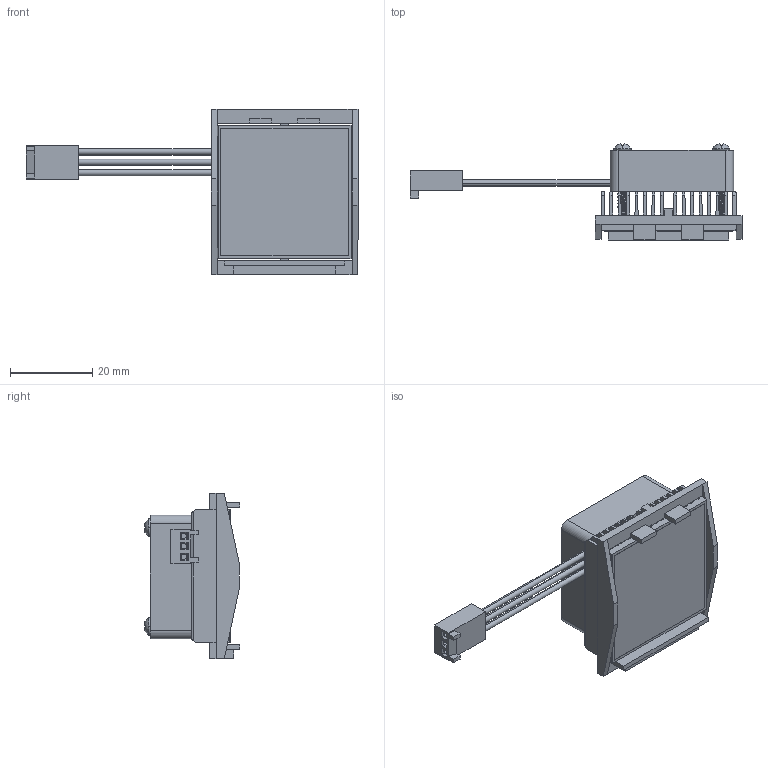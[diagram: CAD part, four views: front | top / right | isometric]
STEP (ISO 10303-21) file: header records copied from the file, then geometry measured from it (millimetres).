
FILE_DESCRIPTION (( 'STEP AP214' ), '1' );
FILE_NAME ('FI33-1.7+Y.STEP', '2023-03-07T22:14:39', ( '' ), ( '' ), 'SwSTEP 2.0', 'SolidWorks 2020', '' );
FILE_SCHEMA (( 'AUTOMOTIVE_DESIGN' ));
Length unit declared in the file: millimetre
Products named in the file (1): FI33-1.7+Y
Bounding box: 80.69 x 23.3 x 40.1 mm (x, y, z)
Volume: 10963.4 mm3; surface area: 20922.9 mm2
Topology: 8 solids, 8 shells, 884 faces, 2565 edges, 1704 vertices
Faces by surface type: cylinder 381, plane 329, bspline 118, cone 40, sphere 8, torus 8
Entity records: 64404 total; most frequent: CARTESIAN_POINT 34064, ORIENTED_EDGE 5130, DIRECTION 3463, EDGE_CURVE 2565, VERTEX_POINT 1704, VECTOR 1293, LINE 1293, AXIS2_PLACEMENT_3D 1085
